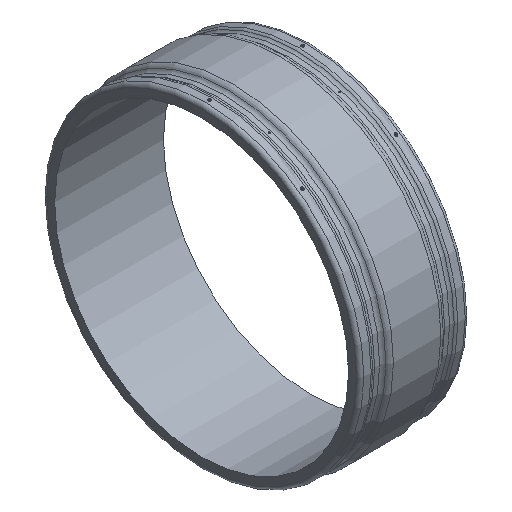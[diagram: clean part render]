
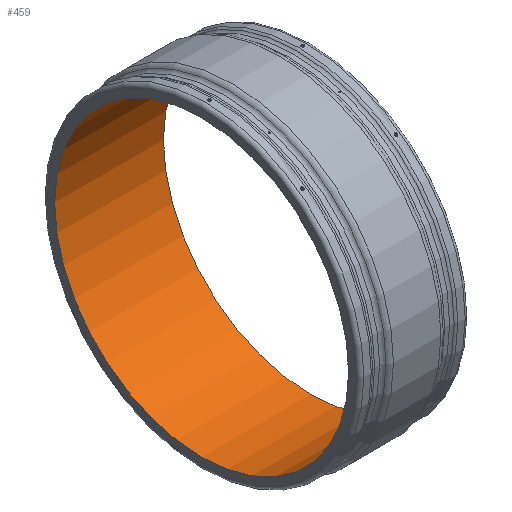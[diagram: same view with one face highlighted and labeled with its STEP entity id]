
A CAD part, isometric view. The second image highlights one B-rep face of the part: STEP entity #459.
In plain terms, the highlighted cylindrical face has radius 800 mm (diameter 1600 mm), a full revolution.
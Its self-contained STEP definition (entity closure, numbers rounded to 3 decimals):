
#53=CIRCLE('',#524,800.);
#54=CIRCLE('',#525,800.);
#79=CYLINDRICAL_SURFACE('',#523,800.);
#123=ORIENTED_EDGE('',*,*,#193,.T.);
#124=ORIENTED_EDGE('',*,*,#194,.F.);
#193=EDGE_CURVE('',#235,#235,#53,.T.);
#194=EDGE_CURVE('',#236,#236,#54,.T.);
#235=VERTEX_POINT('',#1298);
#236=VERTEX_POINT('',#1300);
#303=EDGE_LOOP('',(#123));
#304=EDGE_LOOP('',(#124));
#387=FACE_BOUND('',#303,.T.);
#388=FACE_BOUND('',#304,.T.);
#459=ADVANCED_FACE('',(#387,#388),#79,.F.);
#523=AXIS2_PLACEMENT_3D('',#1296,#619,#620);
#524=AXIS2_PLACEMENT_3D('',#1297,#621,#622);
#525=AXIS2_PLACEMENT_3D('',#1299,#623,#624);
#619=DIRECTION('',(-1.,0.,0.));
#620=DIRECTION('',(0.,0.,1.));
#621=DIRECTION('',(-1.,0.,0.));
#622=DIRECTION('',(0.,0.,1.));
#623=DIRECTION('',(-1.,0.,0.));
#624=DIRECTION('',(0.,0.,1.));
#1296=CARTESIAN_POINT('',(-100.,0.,0.));
#1297=CARTESIAN_POINT('',(-296.,0.,0.));
#1298=CARTESIAN_POINT('',(-296.,0.,800.));
#1299=CARTESIAN_POINT('',(296.,0.,0.));
#1300=CARTESIAN_POINT('',(296.,0.,800.));
